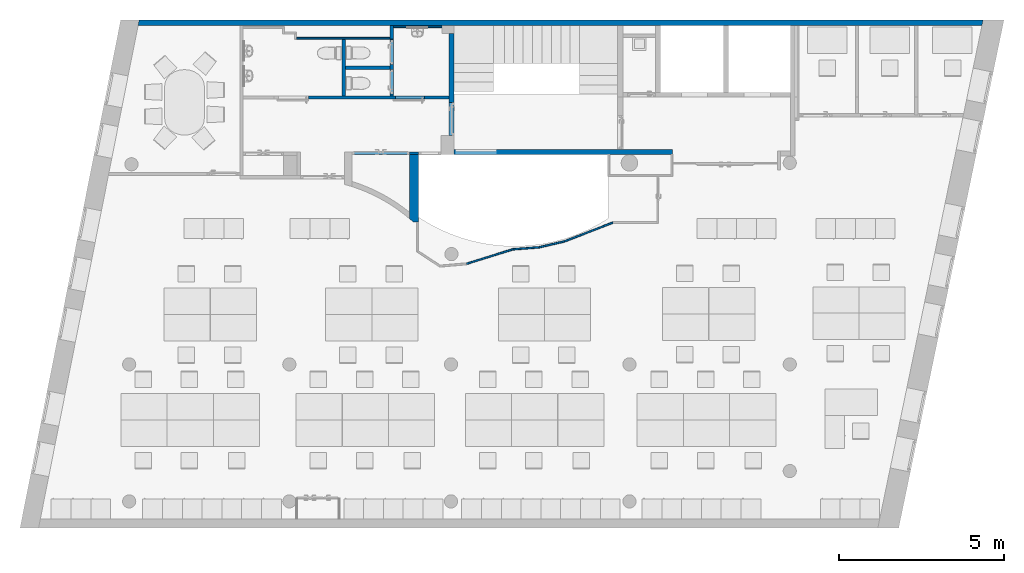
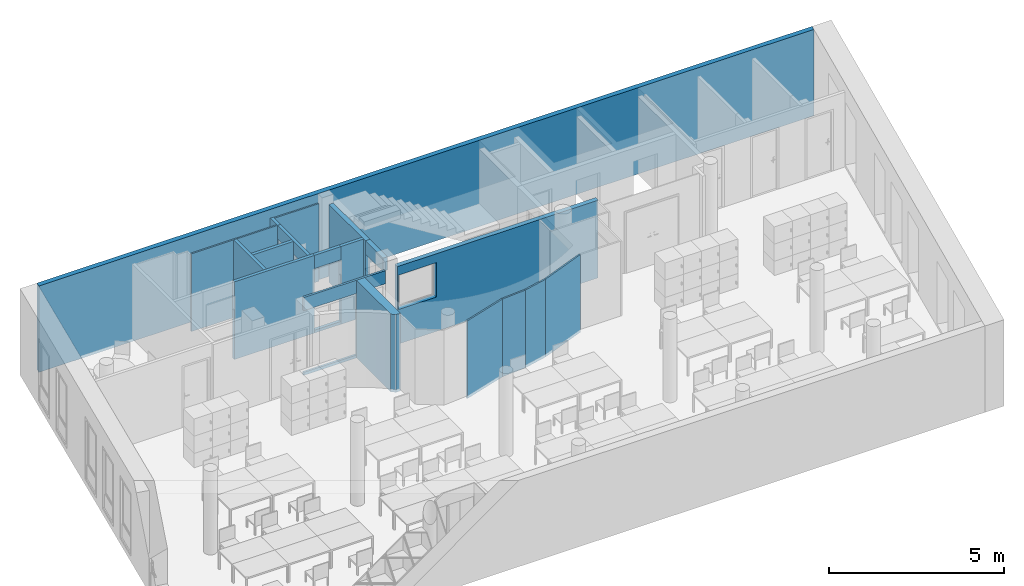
"""IFC4 building model written with IfcOpenShell, lengths in metres."""

import ifcopenshell
import ifcopenshell.guid

model = None  # the IFC model being written
_history = None  # IfcOwnerHistory: only IFC2X3 demands one
_inside = {}  # id of a spatial element -> (the spatial element, [elements in it])
_under = {}  # id of a project, library or spatial element -> (it, [spatial elements below it])
_declared = {}  # id of a project -> (the project, [libraries it declares])
_typed = {}  # id of a type object -> (the type object, [elements of that type])
_made_of = {}  # id of a material, layer set ... -> (it, [elements and type objects made of it])


def new_model(schema):
    """Start an empty IFC model of exactly this schema.

    Asked for "IFC4X3", IfcOpenShell would pick the latest addendum, in which some entities
    have other attributes; the version numbers below select the first issue.
    IFC2X3 requires an IfcOwnerHistory on every rooted entity: one is made here for all.
    """
    global model, _history
    if schema == "IFC4X3":
        model = ifcopenshell.file(schema_version=(4, 3, 0, 0))
    else:
        model = ifcopenshell.file(schema=schema)
    _inside.clear()
    _under.clear()
    _declared.clear()
    _typed.clear()
    _made_of.clear()
    _history = None
    if model.schema == "IFC2X3":
        org = make("IfcOrganization", Name="unknown")
        user = make(
            "IfcPersonAndOrganization",
            ThePerson=make("IfcPerson", FamilyName="unknown"),
            TheOrganization=org,
        )
        app = make(
            "IfcApplication",
            ApplicationDeveloper=org,
            Version="unknown",
            ApplicationFullName="unknown",
            ApplicationIdentifier="unknown",
        )
        _history = make(
            "IfcOwnerHistory",
            OwningUser=user,
            OwningApplication=app,
            ChangeAction="ADDED",
            CreationDate=0,
        )
    return model


def make(cls, **values):
    """One entity of the class cls with the attributes given. An attribute that is None is left unset."""
    return model.create_entity(
        cls, **{name: value for name, value in values.items() if value is not None}
    )


def entity(cls, *values):
    """Any entity or typed value of the class cls, its attributes in the order of the schema. None: left unset."""
    e = model.create_entity(cls)
    for i, value in enumerate(values):
        if value is not None:
            e[i] = value
    return e


def rooted(cls, **values):
    """An entity with a GlobalId (a new one), such as an element, a storey or a relation."""
    return make(cls, GlobalId=ifcopenshell.guid.new(), OwnerHistory=_history, **values)


def si_unit(unit_type, name, prefix=None):
    """IfcSIUnit, for example si_unit("LENGTHUNIT", "METRE", prefix="MILLI")."""
    return make("IfcSIUnit", UnitType=unit_type, Prefix=prefix, Name=name)


def converted_unit(unit_type, name, factor, base, dimensions=None, offset=None):
    """IfcConversionBasedUnit, such as the inch: factor (a typed value) times the base unit."""
    return make(
        "IfcConversionBasedUnit"
        if offset is None
        else "IfcConversionBasedUnitWithOffset",
        ConversionOffset=offset,
        Dimensions=None
        if dimensions is None
        else entity("IfcDimensionalExponents", *dimensions),
        UnitType=unit_type,
        Name=name,
        ConversionFactor=make(
            "IfcMeasureWithUnit", ValueComponent=factor, UnitComponent=base
        ),
    )


def derived_unit(unit_type, elements):
    """IfcDerivedUnit: a product of units, each with its exponent."""
    return make(
        "IfcDerivedUnit",
        Elements=[
            make("IfcDerivedUnitElement", Unit=unit, Exponent=power)
            for unit, power in elements
        ],
        UnitType=unit_type,
    )


def assignment(units):
    """IfcUnitAssignment: the units of a project."""
    return None if units is None else make("IfcUnitAssignment", Units=units)


def point(xyz):
    """IfcCartesianPoint."""
    return None if xyz is None else make("IfcCartesianPoint", Coordinates=xyz)


def direction(xyz):
    """IfcDirection."""
    return None if xyz is None else make("IfcDirection", DirectionRatios=xyz)


def frame(location, z_axis=None, x_axis=None):
    """IfcAxis2Placement3D, a coordinate frame: its origin and axes. An axis left out is left unset."""
    return make(
        "IfcAxis2Placement3D",
        Location=point(location),
        Axis=direction(z_axis),
        RefDirection=direction(x_axis),
    )


def frame_2d(location, x_axis=None):
    """IfcAxis2Placement2D, a coordinate frame in the plane: its origin and x axis."""
    return make(
        "IfcAxis2Placement2D", Location=point(location), RefDirection=direction(x_axis)
    )


def origin():
    """The frame at (0, 0, 0) with its axes left unset."""
    return frame((0.0, 0.0, 0.0))


def origin_with_axes():
    """The frame at (0, 0, 0) with the z axis (0, 0, 1) and the x axis (1, 0, 0) written out."""
    return frame((0.0, 0.0, 0.0), z_axis=(0.0, 0.0, 1.0), x_axis=(1.0, 0.0, 0.0))


def place(relative_to, where):
    """IfcLocalPlacement: puts the frame where relative to a parent placement (None: the world)."""
    return make(
        "IfcLocalPlacement", PlacementRelTo=relative_to, RelativePlacement=where
    )


def context(
    kind, dimensions, precision=None, world=None, true_north=None, identifier=None
):
    """IfcGeometricRepresentationContext, for example the 3D "Model" context."""
    return make(
        "IfcGeometricRepresentationContext",
        ContextIdentifier=identifier,
        ContextType=kind,
        CoordinateSpaceDimension=dimensions,
        Precision=precision,
        WorldCoordinateSystem=world,
        TrueNorth=true_north,
    )


def subcontext(parent, identifier, kind, view, scale=None):
    """IfcGeometricRepresentationSubContext, for example "Body" below "Model"."""
    return make(
        "IfcGeometricRepresentationSubContext",
        ContextIdentifier=identifier,
        ContextType=kind,
        ParentContext=parent,
        TargetScale=scale,
        TargetView=view,
    )


def project(units=None, contexts=None):
    """IfcProject with its units and contexts."""
    return rooted(
        "IfcProject",
        Name="project",
        RepresentationContexts=contexts,
        UnitsInContext=assignment(units),
    )


def spatial(cls, under=None, at=None, **own):
    """A site, building, storey or space (cls), placed at a placement, below another one or the project."""
    s = rooted(cls, ObjectPlacement=at, **own)
    if under is not None:
        _under.setdefault(under.id(), (under, []))[1].append(s)
    return s


def polyline(points):
    """IfcPolyline through the points."""
    return make("IfcPolyline", Points=[point(p) for p in points])


def profile(cls, at=None, kind="AREA", **sizes):
    """A parametric profile (cls). Its sizes go by their IFC names, for example OverallWidth=200.0."""
    return make(cls, ProfileType=kind, Position=at, **sizes)


def rectangle(**sizes):
    """IfcRectangleProfileDef."""
    return profile("IfcRectangleProfileDef", **sizes)


def outline(outer, holes=None, kind="AREA"):
    """IfcArbitraryClosedProfileDef: a profile drawn as a closed curve; with holes, ...WithVoids."""
    if holes is None:
        return make("IfcArbitraryClosedProfileDef", ProfileType=kind, OuterCurve=outer)
    return make(
        "IfcArbitraryProfileDefWithVoids",
        ProfileType=kind,
        OuterCurve=outer,
        InnerCurves=holes,
    )


def extrude(swept, where, along, depth):
    """IfcExtrudedAreaSolid: the profile swept, set in the frame where, extruded along a direction by depth."""
    return make(
        "IfcExtrudedAreaSolid",
        SweptArea=swept,
        Position=where,
        ExtrudedDirection=direction(along),
        Depth=depth,
    )


def shape(context_of_items, identifier, shape_type, items):
    """IfcShapeRepresentation: the items that make up one representation, for example the "Body"."""
    return make(
        "IfcShapeRepresentation",
        ContextOfItems=context_of_items,
        RepresentationIdentifier=identifier,
        RepresentationType=shape_type,
        Items=items,
    )


def material(Name=None, Category=None):
    """IfcMaterial."""
    return make("IfcMaterial", Name=Name, Category=Category)


def layer(
    of_material, thickness, ventilated=None, Name=None, Category=None, Priority=None
):
    """IfcMaterialLayer: one layer of a wall or slab, of a material (None: an air gap)."""
    return make(
        "IfcMaterialLayer",
        Material=of_material,
        LayerThickness=thickness,
        IsVentilated=ventilated,
        Name=Name,
        Category=Category,
        Priority=Priority,
    )


def layer_set(layers, Name=None):
    """IfcMaterialLayerSet."""
    return make("IfcMaterialLayerSet", MaterialLayers=layers, LayerSetName=Name)


def layer_usage(for_layer_set, set_direction, sense, offset, extent=None):
    """IfcMaterialLayerSetUsage: how a layer set lies in its element."""
    return make(
        "IfcMaterialLayerSetUsage",
        ForLayerSet=for_layer_set,
        LayerSetDirection=set_direction,
        DirectionSense=sense,
        OffsetFromReferenceLine=offset,
        ReferenceExtent=extent,
    )


def made_of(thing, what):
    """Note that an element or type object is made of a material, layer set ...; save() writes the relation."""
    if what is not None:
        _made_of.setdefault(what.id(), (what, []))[1].append(thing)
    return thing


def element(
    cls,
    number,
    at=None,
    inside=None,
    cuts=None,
    type_object=None,
    material=None,
    context=None,
    identifier="Body",
    shape_type=None,
    held_by="IfcProductDefinitionShape",
    body=None,
    shapes=None,
    **own,
):
    """One element of the class cls, such as IfcWall. Its Tag is "e" and its number.

    at: its placement. inside: the storey or other place that contains it. cuts: it is an
    opening in that element (IfcRelVoidsElement). A single representation is given by context,
    identifier, shape_type and body (its items); several are given by shapes. held_by: the class
    of the entity that holds the representations. save() writes the other relations.
    """
    e = rooted(cls, Tag="e%d" % number, ObjectPlacement=at, **own)
    if body is not None:
        shapes = [shape(context, identifier, shape_type, body)]
    if shapes is not None:
        e.Representation = make(held_by, Representations=shapes)
    if inside is not None:
        _inside.setdefault(inside.id(), (inside, []))[1].append(e)
    if cuts is not None:
        rooted(
            "IfcRelVoidsElement", RelatingBuildingElement=cuts, RelatedOpeningElement=e
        )
    if type_object is not None:
        _typed.setdefault(type_object.id(), (type_object, []))[1].append(e)
    return made_of(e, material)


def aggregate(whole, parts):
    """IfcRelAggregates: a whole, such as a stair, and the parts it consists of."""
    return rooted("IfcRelAggregates", RelatingObject=whole, RelatedObjects=parts)


def save(model, path):
    """Write the relations noted so far, then the file.

    IfcRelAggregates (storeys below a building ...), IfcRelContainedInSpatialStructure (elements
    in a storey), IfcRelDefinesByType, IfcRelAssociatesMaterial and IfcRelDeclares: one each for
    every whole, place, type object, material and project.
    """
    for whole, parts in _under.values():
        aggregate(whole, parts)
    for where, things in _inside.values():
        rooted(
            "IfcRelContainedInSpatialStructure",
            RelatedElements=things,
            RelatingStructure=where,
        )
    for kind, things in _typed.values():
        rooted("IfcRelDefinesByType", RelatedObjects=things, RelatingType=kind)
    for what, things in _made_of.values():
        rooted("IfcRelAssociatesMaterial", RelatedObjects=things, RelatingMaterial=what)
    for by, libraries in _declared.values():
        rooted("IfcRelDeclares", RelatingContext=by, RelatedDefinitions=libraries)
    model.write(path)


model = new_model("IFC4")

# Units and contexts
model_context = context("Model", 3, precision=1e-05, world=origin())
body_context = subcontext(model_context, "Body", "Model", "MODEL_VIEW")
ifc_project = project(units=[si_unit("LENGTHUNIT", "METRE"), si_unit("AREAUNIT", "SQUARE_METRE"), si_unit("VOLUMEUNIT", "CUBIC_METRE"), si_unit("MASSUNIT", "GRAM", prefix="KILO"), converted_unit("PLANEANGLEUNIT", "DEGREE", entity("IfcPlaneAngleMeasure", 0.0174532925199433), si_unit("PLANEANGLEUNIT", "RADIAN"), dimensions=[0, 0, 0, 0, 0, 0, 0]), derived_unit("THERMALTRANSMITTANCEUNIT", [(si_unit("POWERUNIT", "WATT"), 1), (si_unit("THERMODYNAMICTEMPERATUREUNIT", "KELVIN"), -1), (si_unit("LENGTHUNIT", "METRE"), -2)]), derived_unit("VOLUMETRICFLOWRATEUNIT", [(si_unit("LENGTHUNIT", "METRE"), 3), (converted_unit("TIMEUNIT", "hour", entity("IfcTimeMeasure", 3600.0), si_unit("TIMEUNIT", "SECOND"), dimensions=[0, 0, 1, 0, 0, 0, 0]), -1), (si_unit("LENGTHUNIT", "METRE"), -1)])], contexts=[model_context])

# Building, storeys
building_placement = place(None, origin())
building = spatial("IfcBuilding", under=ifc_project, at=building_placement, Name="HABITATGE PLURIFAMILIAR", CompositionType="ELEMENT")
storey_1_placement = place(building_placement, frame((0.0, 0.0, 15.28)))
storey_1 = spatial("IfcBuildingStorey", under=building, at=storey_1_placement, Name="PLANTA QUARTA", CompositionType="ELEMENT", Elevation=15.28)
storey_2_placement = place(storey_1_placement, frame((0.0, 0.0, 12.27)))
storey_2 = spatial("IfcBuildingStorey", under=storey_1, at=storey_2_placement, Name="NOU", CompositionType="PARTIAL")

# Wall
ifc_material_1 = material()
ifc_layer_1 = layer(ifc_material_1, 0.1)
ifc_layer_set_1 = layer_set([ifc_layer_1])
ifc_layer_usage_1 = layer_usage(ifc_layer_set_1, "AXIS2", "POSITIVE", 0.0)
wall_1_placement = place(storey_2_placement, frame((407.439729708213, 27.6494598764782, -12.37), z_axis=(0.0, 0.0, 1.0), x_axis=(0.0, -1.0, 0.0)))
element("IfcWall", 1, at=wall_1_placement, inside=storey_2, material=ifc_layer_usage_1, Name="Evans P4", context=body_context, shape_type="SweptSolid", body=[
    extrude(rectangle(XDim=1.72, YDim=0.1, at=frame_2d((0.86, 0.05), x_axis=(1.0, 0.0))), origin_with_axes(), (0.0, 0.0, 1.0), 2.71),
])

# Wall, opening
ifc_material_2 = material()
ifc_layer_2 = layer(ifc_material_2, 0.15)
ifc_layer_set_2 = layer_set([ifc_layer_2])
ifc_layer_usage_2 = layer_usage(ifc_layer_set_2, "AXIS2", "POSITIVE", 0.0)
wall_2_placement = place(storey_2_placement, frame((417.446984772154, 24.3094598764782, -12.37), z_axis=(0.0, 0.0, 1.0), x_axis=(-1.0, 0.0, 0.0)))
wall_2 = element("IfcWall", 2, at=wall_2_placement, inside=storey_2, material=ifc_layer_usage_2, Name="Evans P4", context=body_context, shape_type="SweptSolid", body=[
    extrude(rectangle(XDim=6.61999999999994, YDim=0.15, at=frame_2d((3.30999999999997, 0.075), x_axis=(1.0, 0.0))), origin_with_axes(), (0.0, 0.0, 1.0), 2.71),
])
opening_1_placement = place(wall_2_placement, frame((6.57999999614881, 0.1500000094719, 1.2), z_axis=(0.0, -1.0, 0.0), x_axis=(0.0, 0.0, 1.0)))
element("IfcOpeningElement", 3, at=opening_1_placement, cuts=wall_2, Name="Vano de Finestra P4", ObjectType="Opening", context=body_context, shape_type="SweptSolid", body=[
    extrude(outline(polyline([(1.2, 1.24), (1.2, 0.0), (0.0, 0.0), (0.0, 1.24), (1.2, 1.24)])), origin_with_axes(), (0.0, 0.0, 1.0), 0.15),
])

# Wall, openings
ifc_material_3 = material()
ifc_layer_3 = layer(ifc_material_3, 0.07)
ifc_layer_set_3 = layer_set([ifc_layer_3])
ifc_layer_usage_3 = layer_usage(ifc_layer_set_3, "AXIS2", "POSITIVE", 0.0)
wall_3_placement = place(storey_2_placement, frame((410.423872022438, 24.2294598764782, -12.37), z_axis=(0.0, 0.0, 1.0), x_axis=(-1.0, 0.0, 0.0)))
wall_3 = element("IfcWall", 4, at=wall_3_placement, inside=storey_2, material=ifc_layer_usage_3, Name="Evans P4", context=body_context, shape_type="SweptSolid", body=[
    extrude(rectangle(XDim=2.68688724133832, YDim=0.07, at=frame_2d((1.34344362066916, 0.035), x_axis=(1.0, 0.0))), origin_with_axes(), (0.0, 0.0, 1.0), 2.71),
])
opening_2_placement = place(wall_3_placement, frame((0.676887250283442, 0.07, 0.1), z_axis=(0.0, -1.0, 0.0), x_axis=(0.0, 0.0, 1.0)))
element("IfcOpeningElement", 5, at=opening_2_placement, cuts=wall_3, Name="Vano porta P4", ObjectType="Opening", context=body_context, shape_type="SweptSolid", body=[
    extrude(outline(polyline([(2.15, 0.68), (2.15, 0.0), (0.0, 0.0), (0.0, 0.68), (2.15, 0.68)])), origin_with_axes(), (0.0, 0.0, 1.0), 0.07),
])
opening_3_placement = place(wall_3_placement, frame((2.68688725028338, 0.07, 0.1), z_axis=(0.0, -1.0, 0.0), x_axis=(0.0, 0.0, 1.0)))
element("IfcOpeningElement", 6, at=opening_3_placement, cuts=wall_3, Name="Vano porta P4", ObjectType="Opening", context=body_context, shape_type="SweptSolid", body=[
    extrude(outline(polyline([(2.15, 1.73842385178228), (2.15, 0.0), (0.0, 0.0), (0.0, 1.73842385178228), (2.15, 1.73842385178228)])), origin_with_axes(), (0.0, 0.0, 1.0), 0.07),
])

# Walls
ifc_material_4 = material()
ifc_layer_4 = layer(ifc_material_4, 0.1)
ifc_layer_set_4 = layer_set([ifc_layer_4])
ifc_layer_usage_4 = layer_usage(ifc_layer_set_4, "AXIS2", "POSITIVE", 0.0)
wall_4_placement = place(storey_2_placement, frame((407.539729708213, 26.7294598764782, -12.37)))
element("IfcWall", 7, at=wall_4_placement, inside=storey_2, material=ifc_layer_usage_4, Name="Evans P4", context=body_context, shape_type="SweptSolid", body=[
    extrude(rectangle(XDim=1.34774396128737, YDim=0.1, at=frame_2d((0.673871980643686, 0.05), x_axis=(1.0, 0.0))), origin_with_axes(), (0.0, 0.0, 1.0), 2.71),
])
ifc_material_5 = material()
ifc_layer_5 = layer(ifc_material_5, 0.05)
ifc_layer_set_5 = layer_set([ifc_layer_5])
ifc_layer_usage_5 = layer_usage(ifc_layer_set_5, "AXIS2", "POSITIVE", 0.0)
wall_5_placement = place(storey_2_placement, frame((408.986984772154, 27.9994598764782, -12.37)))
element("IfcWall", 8, at=wall_5_placement, inside=storey_2, material=ifc_layer_usage_5, Name="Evans P4", context=body_context, shape_type="SweptSolid", body=[
    extrude(rectangle(XDim=1.46999999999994, YDim=0.05, at=frame_2d((0.734999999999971, 0.025), x_axis=(1.0, 0.0))), origin_with_axes(), (0.0, 0.0, 1.0), 2.71),
])
ifc_material_6 = material()
ifc_layer_6 = layer(ifc_material_6, 0.05)
ifc_layer_set_6 = layer_set([ifc_layer_6])
ifc_layer_usage_6 = layer_usage(ifc_layer_set_6, "AXIS2", "POSITIVE", 0.0)
wall_6_placement = place(storey_2_placement, frame((406.046984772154, 27.6494598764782, -12.37)))
element("IfcWall", 9, at=wall_6_placement, inside=storey_2, material=ifc_layer_usage_6, Name="Evans P4", context=body_context, shape_type="SweptSolid", body=[
    extrude(rectangle(XDim=2.84, YDim=0.05, at=frame_2d((1.42, 0.025), x_axis=(1.0, 0.0))), origin_with_axes(), (0.0, 0.0, 1.0), 2.71),
])
ifc_material_7 = material()
ifc_layer_7 = layer(ifc_material_7, 0.0500000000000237)
ifc_layer_set_7 = layer_set([ifc_layer_7])
ifc_layer_usage_7 = layer_usage(ifc_layer_set_7, "AXIS2", "POSITIVE", 0.0)
wall_7_placement = place(storey_2_placement, frame((414.175033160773, 21.5000828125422, -12.37), z_axis=(0.0, 0.0, 1.0), x_axis=(0.932655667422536, 0.360767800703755, 0.0)))
element("IfcWall", 10, at=wall_7_placement, inside=storey_2, material=ifc_layer_usage_7, Name="Mampara P4", context=body_context, shape_type="SweptSolid", body=[
    extrude(outline(polyline([(0.0152930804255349, -0.00591563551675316), (1.59387370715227, -0.00591563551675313), (1.60316754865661, 0.0440843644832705), (0.0170526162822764, 0.0440843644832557), (0.0205051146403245, 0.0436005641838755), (0.0152930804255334, 0.00640641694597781), (0.0152930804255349, -0.00591563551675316)])), frame((-0.0152930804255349, 0.00591563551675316, 0.0), z_axis=(0.0, 0.0, 1.0), x_axis=(1.0, 0.0, 0.0)), (0.0, 0.0, 1.0), 2.71),
])
ifc_material_8 = material()
ifc_layer_8 = layer(ifc_material_8, 0.049999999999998)
ifc_layer_set_8 = layer_set([ifc_layer_8])
ifc_layer_usage_8 = layer_usage(ifc_layer_set_8, "AXIS2", "POSITIVE", 0.0)
wall_8_placement = place(storey_2_placement, frame((413.404198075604, 21.3194588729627, -12.37), z_axis=(0.0, 0.0, 1.0), x_axis=(0.97369668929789, 0.227848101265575, 0.0)))
element("IfcWall", 11, at=wall_8_placement, inside=storey_2, material=ifc_layer_usage_8, Name="Mampara P4", context=body_context, shape_type="SweptSolid", body=[
    extrude(outline(polyline([(0.00743907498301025, -0.00174076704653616), (0.79744347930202, -0.00174076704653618), (0.797443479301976, 0.0482592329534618), (0.0112928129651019, 0.0482592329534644), (0.00743907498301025, -0.00174076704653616)])), frame((-0.00743907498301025, 0.00174076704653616, 0.0), z_axis=(0.0, 0.0, 1.0), x_axis=(1.0, 0.0, 0.0)), (0.0, 0.0, 1.0), 2.71),
])
ifc_material_9 = material()
ifc_layer_9 = layer(ifc_material_9, 0.0499999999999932)
ifc_layer_set_9 = layer_set([ifc_layer_9])
ifc_layer_usage_9 = layer_usage(ifc_layer_set_9, "AXIS2", "POSITIVE", 0.0)
wall_9_placement = place(storey_2_placement, frame((412.616484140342, 21.2594598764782, -12.37), z_axis=(0.0, 0.0, 1.0), x_axis=(0.997111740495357, 0.0759485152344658, 0.0)))
element("IfcWall", 12, at=wall_9_placement, inside=storey_2, material=ifc_layer_usage_9, Name="Mampara P4", context=body_context, shape_type="SweptSolid", body=[
    extrude(outline(polyline([(0.0105815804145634, -0.000717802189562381), (0.79941951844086, -0.000717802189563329), (0.795565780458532, 0.0492821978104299), (0.00375375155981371, 0.0492821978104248), (0.0094238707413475, -0.000717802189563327), (0.010552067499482, -0.000458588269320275), (0.0105815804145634, -0.000717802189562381)])), frame((-0.0094238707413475, 0.000717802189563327, 0.0), z_axis=(0.0, 0.0, 1.0), x_axis=(1.0, 0.0, 0.0)), (0.0, 0.0, 1.0), 2.71),
])
ifc_material_10 = material()
ifc_layer_10 = layer(ifc_material_10, 0.0500000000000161)
ifc_layer_set_10 = layer_set([ifc_layer_10])
ifc_layer_usage_10 = layer_usage(ifc_layer_set_10, "AXIS2", "POSITIVE", 0.0)
wall_10_placement = place(storey_2_placement, frame((411.203409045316, 20.8194604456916, -12.37), z_axis=(0.0, 0.0, 1.0), x_axis=(0.954784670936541, 0.297298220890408, 0.0)))
element("IfcWall", 13, at=wall_10_placement, inside=storey_2, material=ifc_layer_usage_10, Name="Mampara P4", context=body_context, shape_type="SweptSolid", body=[
    extrude(outline(polyline([(0.00924181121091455, -0.00287768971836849), (1.48923529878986, -0.00287768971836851), (1.49490541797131, 0.0471223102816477), (0.0146728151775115, 0.0471223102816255), (0.00924181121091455, -0.00287768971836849)])), frame((-0.00924181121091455, 0.00287768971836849, 0.0), z_axis=(0.0, 0.0, 1.0), x_axis=(1.0, 0.0, 0.0)), (0.0, 0.0, 1.0), 2.71),
])
ifc_material_11 = material()
ifc_layer_11 = layer(ifc_material_11, 0.1)
ifc_layer_set_11 = layer_set([ifc_layer_11])
ifc_layer_usage_11 = layer_usage(ifc_layer_set_11, "AXIS2", "POSITIVE", 0.0)
wall_11_placement = place(storey_2_placement, frame((408.986984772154, 27.6494598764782, -12.37), z_axis=(0.0, 0.0, 1.0), x_axis=(0.0, 1.0, 0.0)))
element("IfcWall", 14, at=wall_11_placement, inside=storey_2, material=ifc_layer_usage_11, Name="Evans P4", context=body_context, shape_type="SweptSolid", body=[
    extrude(rectangle(XDim=0.418788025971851, YDim=0.1, at=frame_2d((0.209394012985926, 0.05), x_axis=(1.0, 0.0))), origin_with_axes(), (0.0, 0.0, 1.0), 2.71),
])
ifc_material_12 = material()
ifc_layer_12 = layer(ifc_material_12, 0.1)
ifc_layer_set_12 = layer_set([ifc_layer_12])
ifc_layer_usage_12 = layer_usage(ifc_layer_set_12, "AXIS2", "POSITIVE", 0.0)
wall_12_placement = place(storey_2_placement, frame((406.415197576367, 25.8294598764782, -12.37)))
element("IfcWall", 15, at=wall_12_placement, inside=storey_2, material=ifc_layer_usage_12, Name="Evans P4", context=body_context, shape_type="SweptSolid", body=[
    extrude(rectangle(XDim=2.64178719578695, YDim=0.1, at=frame_2d((1.32089359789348, 0.05), x_axis=(1.0, 0.0))), origin_with_axes(), (0.0, 0.0, 1.0), 2.71),
])
ifc_material_13 = material()
ifc_layer_13 = layer(ifc_material_13, 0.15)
ifc_layer_set_13 = layer_set([ifc_layer_13])
ifc_layer_usage_13 = layer_usage(ifc_layer_set_13, "AXIS2", "POSITIVE", 0.0)
wall_13_placement = place(storey_2_placement, frame((410.826984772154, 25.7294598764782, -12.37), z_axis=(0.0, 0.0, 1.0), x_axis=(0.0, 1.0, 0.0)))
element("IfcWall", 16, at=wall_13_placement, inside=storey_2, material=ifc_layer_usage_13, Name="Evans P4", context=body_context, shape_type="SweptSolid", body=[
    extrude(rectangle(XDim=2.08999999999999, YDim=0.15, at=frame_2d((1.045, 0.075), x_axis=(1.0, 0.0))), origin_with_axes(), (0.0, 0.0, 1.0), 2.71),
])
ifc_material_14 = material()
ifc_layer_14 = layer(ifc_material_14, 0.27)
ifc_layer_set_14 = layer_set([ifc_layer_14])
ifc_layer_usage_14 = layer_usage(ifc_layer_set_14, "AXIS2", "POSITIVE", 0.0)
wall_14_placement = place(storey_2_placement, frame((409.746984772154, 22.1096257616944, -12.37), z_axis=(0.0, 0.0, 1.0), x_axis=(0.0, 1.0, 0.0)))
element("IfcWall", 17, at=wall_14_placement, inside=storey_2, material=ifc_layer_usage_14, Name="Evans P4", context=body_context, shape_type="SweptSolid", body=[
    extrude(outline(polyline([(0.0, -0.27), (2.04983411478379, -0.27), (2.04983411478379, 0.0), (0.0999458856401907, 0.0), (0.00246977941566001, -0.116063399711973), (0.000505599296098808, -0.114289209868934), (0.0, -0.219999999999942), (0.0, -0.27)])), frame((0.0, 0.27, 0.0), z_axis=(0.0, 0.0, 1.0), x_axis=(1.0, 0.0, 0.0)), (0.0, 0.0, 1.0), 2.71),
])
ifc_material_15 = material()
ifc_layer_15 = layer(ifc_material_15, 0.16)
ifc_layer_set_15 = layer_set([ifc_layer_15])
ifc_layer_usage_15 = layer_usage(ifc_layer_set_15, "AXIS2", "POSITIVE", 0.0)
wall_15_placement = place(storey_2_placement, frame((426.846407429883, 28.22824790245, -12.37), z_axis=(0.0, 0.0, 1.0), x_axis=(-1.0, 0.0, 0.0)))
element("IfcWall", 18, at=wall_15_placement, inside=storey_2, material=ifc_layer_usage_15, Name="Evans P4", context=body_context, shape_type="SweptSolid", body=[
    extrude(outline(polyline([(-25.5876817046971, -0.16), (-0.0317001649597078, -0.16), (0.0, 0.0), (-25.5545233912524, 0.0), (-25.5876817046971, -0.16)])), frame((25.5876817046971, 0.16, 0.0), z_axis=(0.0, 0.0, 1.0), x_axis=(1.0, 0.0, 0.0)), (0.0, 0.0, 1.0), 3.01),
])
ifc_material_16 = material()
ifc_layer_16 = layer(ifc_material_16, 0.1)
ifc_layer_set_16 = layer_set([ifc_layer_16])
ifc_layer_usage_16 = layer_usage(ifc_layer_set_16, "AXIS2", "POSITIVE", 0.0)
wall_16_placement = place(storey_2_placement, frame((409.926984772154, 25.8294598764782, -12.37)))
element("IfcWall", 19, at=wall_16_placement, inside=storey_2, material=ifc_layer_usage_16, Name="Evans P4", context=body_context, shape_type="SweptSolid", body=[
    extrude(rectangle(XDim=0.75, YDim=0.1, at=frame_2d((0.375, 0.05), x_axis=(1.0, 0.0))), origin_with_axes(), (0.0, 0.0, 1.0), 2.71),
])

# Wall, openings
ifc_material_17 = material()
ifc_layer_17 = layer(ifc_material_17, 0.1)
ifc_layer_set_17 = layer_set([ifc_layer_17])
ifc_layer_usage_17 = layer_usage(ifc_layer_set_17, "AXIS2", "POSITIVE", 0.0)
wall_17_placement = place(storey_2_placement, frame((408.986984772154, 25.9294598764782, -12.37), z_axis=(0.0, 0.0, 1.0), x_axis=(0.0, 1.0, 0.0)))
wall_17 = element("IfcWall", 20, at=wall_17_placement, inside=storey_2, material=ifc_layer_usage_17, Name="Evans P4", context=body_context, shape_type="SweptSolid", body=[
    extrude(outline(polyline([(0.0, -0.1), (1.72, -0.1), (1.72, 0.0), (0.9, 0.0), (0.8, 0.0), (0.0, 0.0), (0.0, -0.1)])), frame((0.0, 0.1, 0.0), z_axis=(0.0, 0.0, 1.0), x_axis=(1.0, 0.0, 0.0)), (0.0, 0.0, 1.0), 2.71),
])
opening_4_placement = place(wall_17_placement, frame((1.68897366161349, 0.1, 0.1), z_axis=(0.0, -1.0, 0.0), x_axis=(0.0, 0.0, 1.0)))
element("IfcOpeningElement", 21, at=opening_4_placement, cuts=wall_17, Name="Vano porta P4", ObjectType="Opening", context=body_context, shape_type="SweptSolid", body=[
    extrude(outline(polyline([(2.15, 0.738973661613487), (2.15, 0.0), (0.0, 0.0), (0.0, 0.738973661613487), (2.15, 0.738973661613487)])), origin_with_axes(), (0.0, 0.0, 1.0), 0.1),
])
opening_5_placement = place(wall_17_placement, frame((0.798973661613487, 0.1, 0.1), z_axis=(0.0, -1.0, 0.0), x_axis=(0.0, 0.0, 1.0)))
element("IfcOpeningElement", 22, at=opening_5_placement, cuts=wall_17, Name="Vano porta P4", ObjectType="Opening", context=body_context, shape_type="SweptSolid", body=[
    extrude(outline(polyline([(2.15, 0.74), (2.15, 0.0), (0.0, 0.0), (0.0, 0.74), (2.15, 0.74)])), origin_with_axes(), (0.0, 0.0, 1.0), 0.1),
])

# Wall, opening
ifc_material_18 = material()
ifc_layer_18 = layer(ifc_material_18, 0.15)
ifc_layer_set_18 = layer_set([ifc_layer_18])
ifc_layer_usage_18 = layer_usage(ifc_layer_set_18, "AXIS2", "POSITIVE", 0.0)
wall_18_placement = place(storey_2_placement, frame((410.826984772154, 24.7294598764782, -12.37), z_axis=(0.0, 0.0, 1.0), x_axis=(0.0, 1.0, 0.0)))
wall_18 = element("IfcWall", 23, at=wall_18_placement, inside=storey_2, material=ifc_layer_usage_18, Name="Evans P4", context=body_context, shape_type="SweptSolid", body=[
    extrude(rectangle(XDim=1.00000000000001, YDim=0.15, at=frame_2d((0.500000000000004, 0.075), x_axis=(1.0, 0.0))), origin_with_axes(), (0.0, 0.0, 1.0), 2.71),
])
opening_6_placement = place(wall_18_placement, frame((0.0, 0.0, 0.1), z_axis=(0.0, 1.0, 0.0), x_axis=(0.0, 0.0, 1.0)))
element("IfcOpeningElement", 24, at=opening_6_placement, cuts=wall_18, Name="Vano porta P4", ObjectType="Opening", context=body_context, shape_type="SweptSolid", body=[
    extrude(outline(polyline([(2.15, 1.00000000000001), (2.15, 0.0), (0.0, 0.0), (0.0, 1.00000000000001), (2.15, 1.00000000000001)])), origin_with_axes(), (0.0, 0.0, 1.0), 0.15),
])

ifc_material_19 = material()
ifc_layer_19 = layer(ifc_material_19, 0.1)
ifc_layer_set_19 = layer_set([ifc_layer_19])
ifc_layer_usage_19 = layer_usage(ifc_layer_set_19, "AXIS2", "POSITIVE", 0.0)
wall_19_placement = place(storey_2_placement, frame((409.056984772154, 25.8294598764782, -12.37)))
wall_19 = element("IfcWall", 25, at=wall_19_placement, inside=storey_2, material=ifc_layer_usage_19, Name="Evans P4", context=body_context, shape_type="SweptSolid", body=[
    extrude(rectangle(XDim=0.87, YDim=0.1, at=frame_2d((0.435, 0.05), x_axis=(1.0, 0.0))), origin_with_axes(), (0.0, 0.0, 1.0), 2.71),
])
opening_7_placement = place(wall_19_placement, frame((0.87, 0.1, 0.1), z_axis=(0.0, -1.0, 0.0), x_axis=(0.0, 0.0, 1.0)))
element("IfcOpeningElement", 26, at=opening_7_placement, cuts=wall_19, Name="Vano porta P4", ObjectType="Opening", context=body_context, shape_type="SweptSolid", body=[
    extrude(outline(polyline([(2.15, 0.87), (2.15, 0.0), (0.0, 0.0), (0.0, 0.87), (2.15, 0.87)])), origin_with_axes(), (0.0, 0.0, 1.0), 0.1),
])

save(model, "model.ifc")
